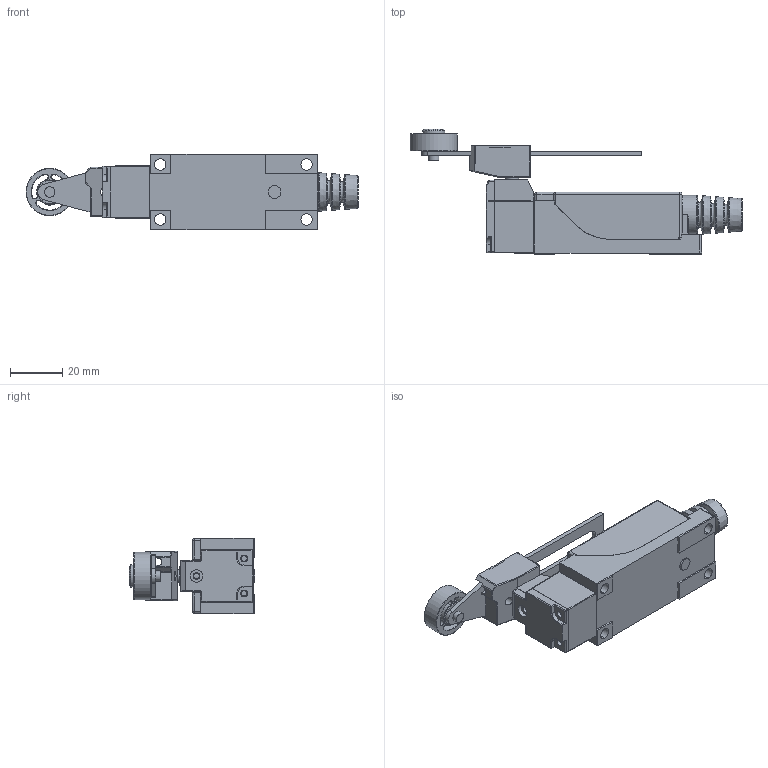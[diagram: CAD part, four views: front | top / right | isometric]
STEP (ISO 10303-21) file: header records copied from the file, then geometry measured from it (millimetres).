
FILE_DESCRIPTION(('FreeCAD Model'),'2;1');
FILE_NAME('Open CASCADE Shape Model','2026-09-09T09:28:49',(''),(''), 'Open CASCADE STEP processor 7.8','FreeCAD','Unknown');
FILE_SCHEMA(('AUTOMOTIVE_DESIGN { 1 0 10303 214 1 1 1 1 }'));
Length unit declared in the file: millimetre
Products named in the file (13): FM8108; TZ-8108; TZ-8108001; TZ-8108002; TZ-8108003; TZ-8108004; TZ-8108005; TZ-810006; TZ-8108006; TZ-8108007; TZ-8108008; TZ-8108009; TZ-8108010
Assembly tree (12 placements, depth 2):
  FM8108
    TZ-8108
    TZ-8108001
    TZ-8108002
    TZ-8108003
    TZ-8108004
    TZ-8108005
    TZ-810006
    TZ-8108006
    TZ-8108007
    TZ-8108008
    TZ-8108009
    TZ-8108010
Bounding box: 126.57 x 47.82 x 28.81 mm (x, y, z)
Volume: 28596.7 mm3; surface area: 32194.2 mm2
Topology: 12 solids, 12 shells, 818 faces, 2058 edges, 1292 vertices
Faces by surface type: plane 379, cylinder 255, cone 88, torus 54, sphere 20, bspline 18, extrusion 4
Full cylindrical faces by diameter (mm): 0.6 x1, 0.7 x8, 2.6 x3, 2.713 x1, 3 x3, 3.32 x1, 3.35 x1, 3.4 x1, 3.9 x1, 4 x1, 4.02 x1, 4.03 x1, 4.1 x1, 4.8 x1, 5 x1, 5.231 x1, 5.9 x1, 5.95 x2, 6 x3, 6.438 x1, 7.1 x1, 7.95 x1, 8 x1, 8.5 x1, 9.2 x1, 10.8 x1, 15 x1, 18.1 x1
Entity records: 28496 total; most frequent: CARTESIAN_POINT 8610, DIRECTION 4099, ORIENTED_EDGE 4076, EDGE_CURVE 2038, AXIS2_PLACEMENT_3D 1518, VERTEX_POINT 1292, VECTOR 1063, LINE 1059
